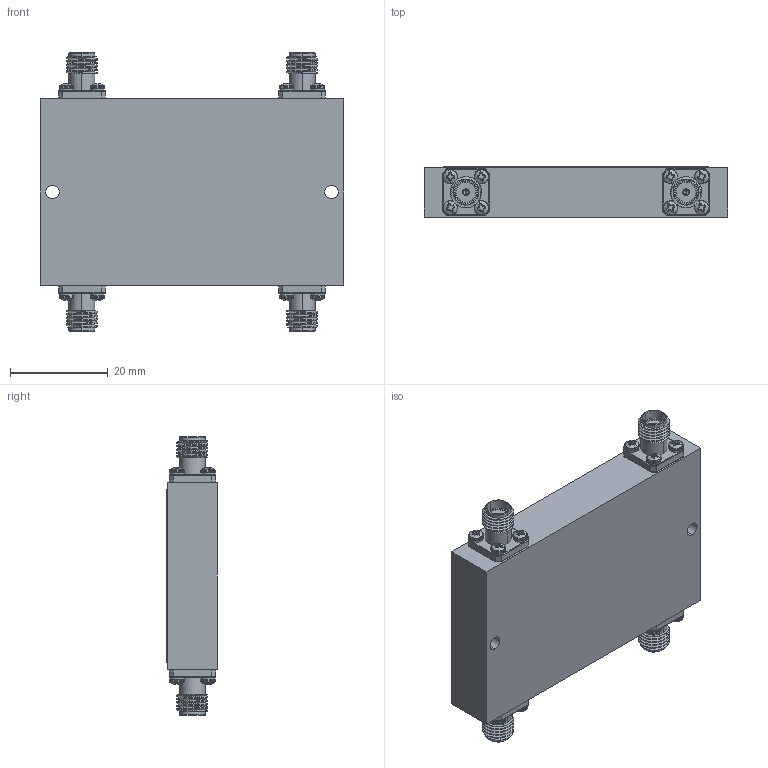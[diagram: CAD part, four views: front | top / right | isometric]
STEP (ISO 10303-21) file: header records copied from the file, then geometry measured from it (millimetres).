
FILE_DESCRIPTION (( 'STEP AP214' ), '1' );
FILE_NAME ('PCH-180-1G1R5G-SFF.STEP', '2023-11-28T13:57:51', ( '' ), ( '' ), 'SwSTEP 2.0', 'SolidWorks 2023', '' );
FILE_SCHEMA (( 'AUTOMOTIVE_DESIGN' ));
Length unit declared in the file: inch
Products named in the file (1): PCH-180-1G1R5G-SFF
Bounding box: 62.05 x 10.34 x 57 mm (x, y, z)
Volume: 25099.5 mm3; surface area: 14284.3 mm2
Topology: 38 solids, 38 shells, 1566 faces, 4744 edges, 3400 vertices
Faces by surface type: cylinder 584, plane 566, torus 248, cone 128, sphere 32, bspline 8
Entity records: 81753 total; most frequent: CARTESIAN_POINT 18658, ORIENTED_EDGE 9456, DIRECTION 8372, EDGE_CURVE 4728, VERTEX_POINT 3400, AXIS2_PLACEMENT_3D 3217, VECTOR 1938, LINE 1938
